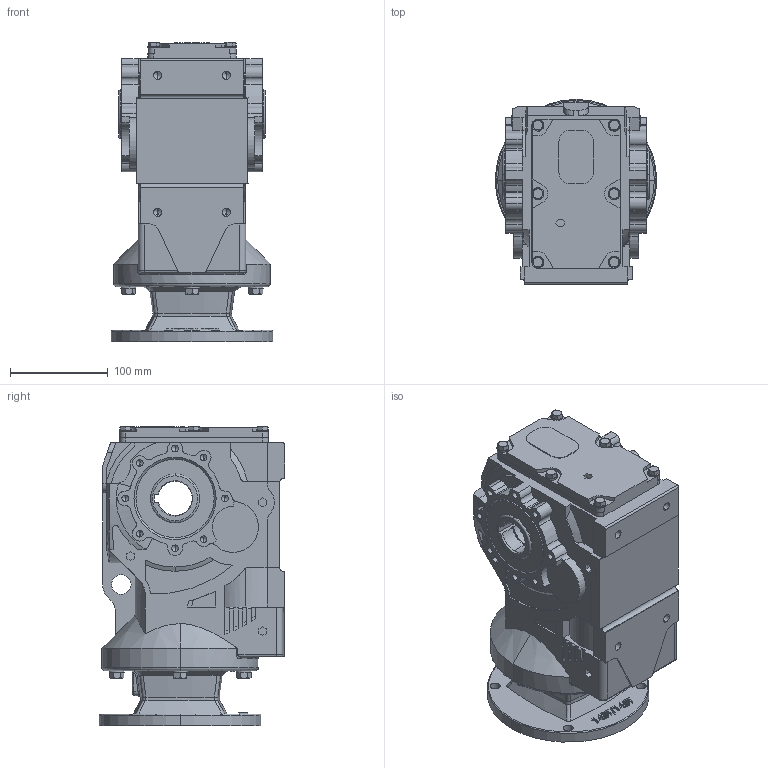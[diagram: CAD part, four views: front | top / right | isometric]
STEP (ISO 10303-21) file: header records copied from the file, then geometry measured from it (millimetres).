
FILE_DESCRIPTION (( 'STEP AP203' ), '1' );
FILE_NAME ('KAN47-143-5TC.STEP', '2022-04-11T07:00:21', ( 'user1' ), ( '' ), 'SwSTEP 2.0', 'SolidWorks 2012', '' );
FILE_SCHEMA (( 'CONFIG_CONTROL_DESIGN' ));
Products named in the file (1): KAN47-143-5TC
Bounding box: 165.1 x 189.35 x 306.38 mm (x, y, z)
Volume: 5190219.3 mm3; surface area: 305155.3 mm2
Topology: 1 solids, 1 shells, 1165 faces, 3108 edges, 1986 vertices
Faces by surface type: plane 553, cylinder 393, cone 121, bspline 83, torus 15
Entity records: 42558 total; most frequent: CARTESIAN_POINT 13908, ORIENTED_EDGE 6132, DIRECTION 5723, EDGE_CURVE 3066, VERTEX_POINT 1986, AXIS2_PLACEMENT_3D 1979, VECTOR 1765, LINE 1765
